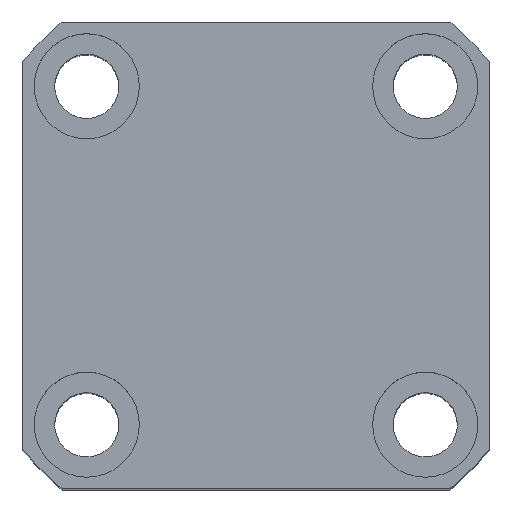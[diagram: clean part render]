
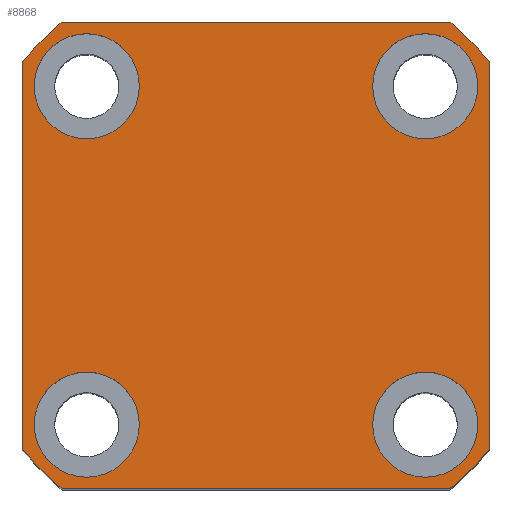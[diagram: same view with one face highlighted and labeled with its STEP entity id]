
A CAD part, top view. The second image highlights one B-rep face of the part: STEP entity #8868.
In plain terms, the highlighted planar face has unit normal (0, 0, 1).
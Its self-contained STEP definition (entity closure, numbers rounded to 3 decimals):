
#68 = CARTESIAN_POINT ( 'NONE',  ( 0., 0., 55. ) ) ;
#72 = VECTOR ( 'NONE', #16205, 1000. ) ;
#188 = CARTESIAN_POINT ( 'NONE',  ( -33.226, -40., 55. ) ) ;
#227 = EDGE_CURVE ( 'NONE', #644, #1834, #13617, .T. ) ;
#229 = CARTESIAN_POINT ( 'NONE',  ( 40., 33.226, 55. ) ) ;
#276 = VERTEX_POINT ( 'NONE', #16093 ) ;
#484 = AXIS2_PLACEMENT_3D ( 'NONE', #11247, #2951, #15488 ) ;
#644 = VERTEX_POINT ( 'NONE', #188 ) ;
#663 = VERTEX_POINT ( 'NONE', #12799 ) ;
#733 = DIRECTION ( 'NONE',  ( 0., 0., 1. ) ) ;
#970 = VERTEX_POINT ( 'NONE', #4522 ) ;
#1145 = CARTESIAN_POINT ( 'NONE',  ( 29., -29., 55. ) ) ;
#1400 = VERTEX_POINT ( 'NONE', #12438 ) ;
#1423 = CARTESIAN_POINT ( 'NONE',  ( -29., -29., 55. ) ) ;
#1602 = CARTESIAN_POINT ( 'NONE',  ( -20., 29., 55. ) ) ;
#1734 = VECTOR ( 'NONE', #14294, 1000. ) ;
#1834 = VERTEX_POINT ( 'NONE', #15811 ) ;
#1907 = DIRECTION ( 'NONE',  ( 1., 0., 0. ) ) ;
#2092 = CIRCLE ( 'NONE', #5188, 9. ) ;
#2107 = CIRCLE ( 'NONE', #12741, 52. ) ;
#2308 = CIRCLE ( 'NONE', #484, 9. ) ;
#2315 = DIRECTION ( 'NONE',  ( 1., 0., 0. ) ) ;
#2523 = VECTOR ( 'NONE', #9015, 1000. ) ;
#2639 = ORIENTED_EDGE ( 'NONE', *, *, #9263, .F. ) ;
#2697 = EDGE_LOOP ( 'NONE', ( #13284, #13343 ) ) ;
#2951 = DIRECTION ( 'NONE',  ( 0., 0., 1. ) ) ;
#3278 = DIRECTION ( 'NONE',  ( 0., 0., 1. ) ) ;
#3388 = DIRECTION ( 'NONE',  ( 1., 0., 0. ) ) ;
#3426 = CIRCLE ( 'NONE', #4198, 52. ) ;
#3572 = ORIENTED_EDGE ( 'NONE', *, *, #14315, .F. ) ;
#3632 = FACE_OUTER_BOUND ( 'NONE', #14674, .T. ) ;
#3773 = AXIS2_PLACEMENT_3D ( 'NONE', #11351, #12530, #9972 ) ;
#3811 = DIRECTION ( 'NONE',  ( 1., 0., 0. ) ) ;
#3883 = CARTESIAN_POINT ( 'NONE',  ( -38., -29., 55. ) ) ;
#4198 = AXIS2_PLACEMENT_3D ( 'NONE', #11157, #8194, #5792 ) ;
#4522 = CARTESIAN_POINT ( 'NONE',  ( -33.226, 40., 55. ) ) ;
#4618 = DIRECTION ( 'NONE',  ( -1., 0., 0. ) ) ;
#4725 = PLANE ( 'NONE',  #4816 ) ;
#4816 = AXIS2_PLACEMENT_3D ( 'NONE', #14457, #15862, #3388 ) ;
#5139 = ORIENTED_EDGE ( 'NONE', *, *, #10643, .T. ) ;
#5144 = LINE ( 'NONE', #10679, #72 ) ;
#5161 = LINE ( 'NONE', #12933, #15630 ) ;
#5188 = AXIS2_PLACEMENT_3D ( 'NONE', #1423, #7111, #12591 ) ;
#5489 = ORIENTED_EDGE ( 'NONE', *, *, #15978, .F. ) ;
#5560 = DIRECTION ( 'NONE',  ( 1., 0., 0. ) ) ;
#5738 = VERTEX_POINT ( 'NONE', #12726 ) ;
#5792 = DIRECTION ( 'NONE',  ( 1., 0., 0. ) ) ;
#5837 = CIRCLE ( 'NONE', #13567, 52. ) ;
#5940 = EDGE_LOOP ( 'NONE', ( #15017, #15119 ) ) ;
#6001 = DIRECTION ( 'NONE',  ( 1., 0., 0. ) ) ;
#6055 = CIRCLE ( 'NONE', #14618, 9. ) ;
#6240 = ORIENTED_EDGE ( 'NONE', *, *, #227, .T. ) ;
#6524 = CARTESIAN_POINT ( 'NONE',  ( -29., 29., 55. ) ) ;
#6540 = VERTEX_POINT ( 'NONE', #13873 ) ;
#6584 = EDGE_CURVE ( 'NONE', #1834, #1400, #3426, .T. ) ;
#6678 = AXIS2_PLACEMENT_3D ( 'NONE', #6524, #16219, #11979 ) ;
#6871 = DIRECTION ( 'NONE',  ( 0., 0., 1. ) ) ;
#6883 = DIRECTION ( 'NONE',  ( 0., 0., 1. ) ) ;
#6937 = DIRECTION ( 'NONE',  ( 1., 0., 0. ) ) ;
#7111 = DIRECTION ( 'NONE',  ( 0., 0., 1. ) ) ;
#7474 = CARTESIAN_POINT ( 'NONE',  ( 29., 29., 55. ) ) ;
#7733 = VERTEX_POINT ( 'NONE', #7791 ) ;
#7791 = CARTESIAN_POINT ( 'NONE',  ( 38., -29., 55. ) ) ;
#8082 = CARTESIAN_POINT ( 'NONE',  ( -40., -33.226, 55. ) ) ;
#8164 = FACE_BOUND ( 'NONE', #5940, .T. ) ;
#8194 = DIRECTION ( 'NONE',  ( 0., 0., 1. ) ) ;
#8716 = CARTESIAN_POINT ( 'NONE',  ( 20., 29., 55. ) ) ;
#8868 = ADVANCED_FACE ( 'NONE', ( #8164, #12961, #9051, #17579, #3632 ), #4725, .T. ) ;
#9015 = DIRECTION ( 'NONE',  ( 1., 0., 0. ) ) ;
#9051 = FACE_BOUND ( 'NONE', #16455, .T. ) ;
#9263 = EDGE_CURVE ( 'NONE', #6540, #16188, #2308, .T. ) ;
#9385 = CARTESIAN_POINT ( 'NONE',  ( 40., 33.226, 55. ) ) ;
#9972 = DIRECTION ( 'NONE',  ( 1., 0., 0. ) ) ;
#10003 = EDGE_CURVE ( 'NONE', #663, #7733, #13917, .T. ) ;
#10265 = DIRECTION ( 'NONE',  ( 1., 0., 0. ) ) ;
#10485 = EDGE_LOOP ( 'NONE', ( #3572, #12189 ) ) ;
#10643 = EDGE_CURVE ( 'NONE', #1400, #13204, #14785, .T. ) ;
#10679 = CARTESIAN_POINT ( 'NONE',  ( -40., 33.226, 55. ) ) ;
#10712 = AXIS2_PLACEMENT_3D ( 'NONE', #11111, #6871, #5560 ) ;
#10846 = DIRECTION ( 'NONE',  ( 0., 0., 1. ) ) ;
#11019 = VERTEX_POINT ( 'NONE', #3883 ) ;
#11111 = CARTESIAN_POINT ( 'NONE',  ( 29., -29., 55. ) ) ;
#11157 = CARTESIAN_POINT ( 'NONE',  ( 0., 0., 55. ) ) ;
#11247 = CARTESIAN_POINT ( 'NONE',  ( -29., 29., 55. ) ) ;
#11351 = CARTESIAN_POINT ( 'NONE',  ( -29., -29., 55. ) ) ;
#11862 = VERTEX_POINT ( 'NONE', #8716 ) ;
#11979 = DIRECTION ( 'NONE',  ( 1., 0., 0. ) ) ;
#12117 = CARTESIAN_POINT ( 'NONE',  ( 29., 29., 55. ) ) ;
#12183 = VERTEX_POINT ( 'NONE', #13824 ) ;
#12189 = ORIENTED_EDGE ( 'NONE', *, *, #13856, .F. ) ;
#12337 = CIRCLE ( 'NONE', #3773, 9. ) ;
#12438 = CARTESIAN_POINT ( 'NONE',  ( 40., -33.226, 55. ) ) ;
#12485 = AXIS2_PLACEMENT_3D ( 'NONE', #1145, #10846, #2315 ) ;
#12530 = DIRECTION ( 'NONE',  ( 0., 0., 1. ) ) ;
#12591 = DIRECTION ( 'NONE',  ( 1., 0., 0. ) ) ;
#12622 = AXIS2_PLACEMENT_3D ( 'NONE', #7474, #733, #10265 ) ;
#12726 = CARTESIAN_POINT ( 'NONE',  ( 33.226, 40., 55. ) ) ;
#12741 = AXIS2_PLACEMENT_3D ( 'NONE', #68, #6883, #6937 ) ;
#12744 = VERTEX_POINT ( 'NONE', #14228 ) ;
#12799 = CARTESIAN_POINT ( 'NONE',  ( 20., -29., 55. ) ) ;
#12895 = DIRECTION ( 'NONE',  ( 0., 0., 1. ) ) ;
#12933 = CARTESIAN_POINT ( 'NONE',  ( -33.226, 40., 55. ) ) ;
#12961 = FACE_BOUND ( 'NONE', #2697, .T. ) ;
#13204 = VERTEX_POINT ( 'NONE', #229 ) ;
#13284 = ORIENTED_EDGE ( 'NONE', *, *, #14717, .F. ) ;
#13343 = ORIENTED_EDGE ( 'NONE', *, *, #16212, .F. ) ;
#13567 = AXIS2_PLACEMENT_3D ( 'NONE', #17409, #3278, #6001 ) ;
#13617 = LINE ( 'NONE', #14404, #2523 ) ;
#13648 = ORIENTED_EDGE ( 'NONE', *, *, #15663, .T. ) ;
#13824 = CARTESIAN_POINT ( 'NONE',  ( 38., 29., 55. ) ) ;
#13855 = CIRCLE ( 'NONE', #12622, 9. ) ;
#13856 = EDGE_CURVE ( 'NONE', #11862, #12183, #13855, .T. ) ;
#13857 = CIRCLE ( 'NONE', #12485, 9. ) ;
#13873 = CARTESIAN_POINT ( 'NONE',  ( -38., 29., 55. ) ) ;
#13917 = CIRCLE ( 'NONE', #10712, 9. ) ;
#13999 = EDGE_CURVE ( 'NONE', #12744, #17295, #5144, .T. ) ;
#14219 = ORIENTED_EDGE ( 'NONE', *, *, #13999, .T. ) ;
#14228 = CARTESIAN_POINT ( 'NONE',  ( -40., 33.226, 55. ) ) ;
#14294 = DIRECTION ( 'NONE',  ( 0., 1., 0. ) ) ;
#14315 = EDGE_CURVE ( 'NONE', #12183, #11862, #6055, .T. ) ;
#14404 = CARTESIAN_POINT ( 'NONE',  ( -33.226, -40., 55. ) ) ;
#14457 = CARTESIAN_POINT ( 'NONE',  ( 0., 0., 55. ) ) ;
#14618 = AXIS2_PLACEMENT_3D ( 'NONE', #12117, #14697, #3811 ) ;
#14674 = EDGE_LOOP ( 'NONE', ( #16374, #14219, #13648, #6240, #16787, #5139, #16935, #15496 ) ) ;
#14697 = DIRECTION ( 'NONE',  ( 0., 0., 1. ) ) ;
#14717 = EDGE_CURVE ( 'NONE', #276, #11019, #12337, .T. ) ;
#14785 = LINE ( 'NONE', #9385, #1734 ) ;
#14862 = EDGE_CURVE ( 'NONE', #13204, #5738, #18032, .T. ) ;
#14957 = CIRCLE ( 'NONE', #6678, 9. ) ;
#15017 = ORIENTED_EDGE ( 'NONE', *, *, #15033, .F. ) ;
#15033 = EDGE_CURVE ( 'NONE', #7733, #663, #13857, .T. ) ;
#15119 = ORIENTED_EDGE ( 'NONE', *, *, #10003, .F. ) ;
#15305 = AXIS2_PLACEMENT_3D ( 'NONE', #15720, #12895, #1907 ) ;
#15467 = EDGE_CURVE ( 'NONE', #5738, #970, #5161, .T. ) ;
#15488 = DIRECTION ( 'NONE',  ( 1., 0., 0. ) ) ;
#15496 = ORIENTED_EDGE ( 'NONE', *, *, #15467, .T. ) ;
#15630 = VECTOR ( 'NONE', #4618, 1000. ) ;
#15663 = EDGE_CURVE ( 'NONE', #17295, #644, #2107, .T. ) ;
#15720 = CARTESIAN_POINT ( 'NONE',  ( 0., 0., 55. ) ) ;
#15811 = CARTESIAN_POINT ( 'NONE',  ( 33.226, -40., 55. ) ) ;
#15862 = DIRECTION ( 'NONE',  ( 0., 0., 1. ) ) ;
#15978 = EDGE_CURVE ( 'NONE', #16188, #6540, #14957, .T. ) ;
#16093 = CARTESIAN_POINT ( 'NONE',  ( -20., -29., 55. ) ) ;
#16188 = VERTEX_POINT ( 'NONE', #1602 ) ;
#16205 = DIRECTION ( 'NONE',  ( 0., -1., 0. ) ) ;
#16212 = EDGE_CURVE ( 'NONE', #11019, #276, #2092, .T. ) ;
#16219 = DIRECTION ( 'NONE',  ( 0., 0., 1. ) ) ;
#16374 = ORIENTED_EDGE ( 'NONE', *, *, #17142, .T. ) ;
#16455 = EDGE_LOOP ( 'NONE', ( #5489, #2639 ) ) ;
#16787 = ORIENTED_EDGE ( 'NONE', *, *, #6584, .T. ) ;
#16935 = ORIENTED_EDGE ( 'NONE', *, *, #14862, .T. ) ;
#17142 = EDGE_CURVE ( 'NONE', #970, #12744, #5837, .T. ) ;
#17295 = VERTEX_POINT ( 'NONE', #8082 ) ;
#17409 = CARTESIAN_POINT ( 'NONE',  ( 0., 0., 55. ) ) ;
#17579 = FACE_BOUND ( 'NONE', #10485, .T. ) ;
#18032 = CIRCLE ( 'NONE', #15305, 52. ) ;
